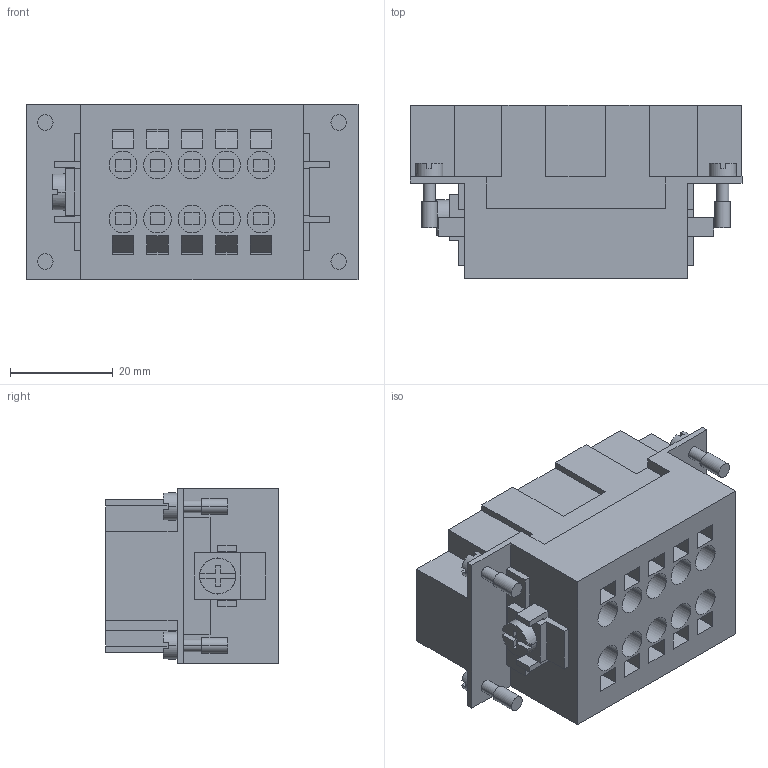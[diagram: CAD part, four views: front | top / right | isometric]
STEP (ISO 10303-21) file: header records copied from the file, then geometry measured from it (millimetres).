
FILE_DESCRIPTION (( 'STEP AP203' ), '1' );
FILE_NAME ('352254.STEP', '2025-06-26T13:47:44', ( '' ), ( '' ), 'SwSTEP 2.0', 'SolidWorks 2018', '' );
FILE_SCHEMA (( 'CONFIG_CONTROL_DESIGN' ));
Length unit declared in the file: millimetre
Products named in the file (1): 352254
Bounding box: 64.5 x 33.6 x 34 mm (x, y, z)
Volume: 37344.7 mm3; surface area: 16780.9 mm2
Topology: 1 solids, 1 shells, 423 faces, 1098 edges, 722 vertices
Faces by surface type: plane 315, cylinder 88, sphere 20
Entity records: 12641 total; most frequent: CARTESIAN_POINT 2184, DIRECTION 2138, ORIENTED_EDGE 2116, EDGE_CURVE 1058, LINE 826, VECTOR 826, VERTEX_POINT 702, AXIS2_PLACEMENT_3D 656
